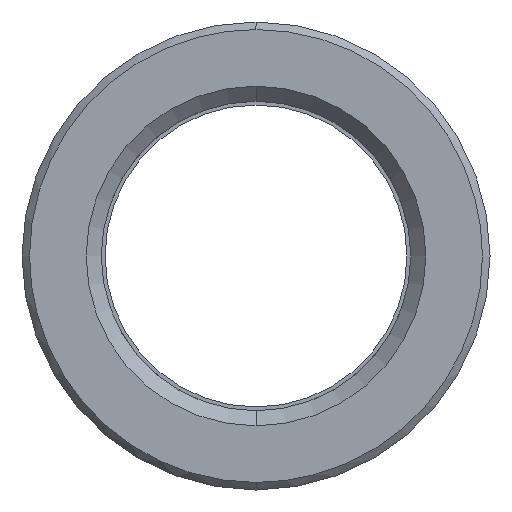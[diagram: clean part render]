
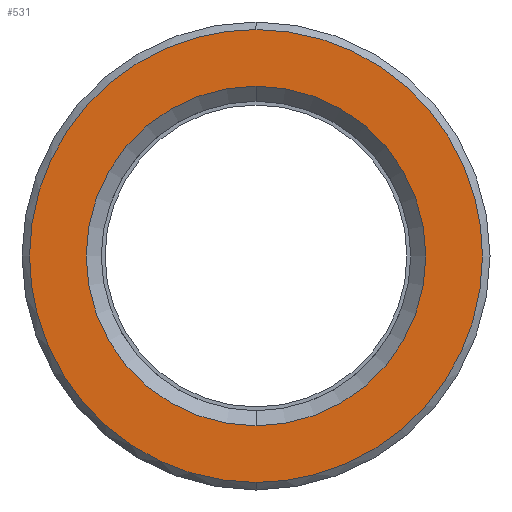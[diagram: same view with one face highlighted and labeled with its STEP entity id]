
A CAD part, left-side view. The second image highlights one B-rep face of the part: STEP entity #531.
In plain terms, the highlighted planar face has unit normal (-1, 0, 0).
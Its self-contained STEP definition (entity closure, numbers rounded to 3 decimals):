
#311=CARTESIAN_POINT('Axis2P3D Location',(0.,0.,0.)) ;
#315=CARTESIAN_POINT('Vertex',(0.,11.25,0.)) ;
#317=CARTESIAN_POINT('Vertex',(0.,0.,11.25)) ;
#320=CARTESIAN_POINT('Axis2P3D Location',(0.,0.,0.)) ;
#324=CARTESIAN_POINT('Vertex',(0.,0.,-11.25)) ;
#351=CARTESIAN_POINT('Axis2P3D Location',(0.,0.,0.)) ;
#355=CARTESIAN_POINT('Vertex',(0.,-11.25,0.)) ;
#358=CARTESIAN_POINT('Axis2P3D Location',(0.,0.,0.)) ;
#438=CARTESIAN_POINT('Axis2P3D Location',(0.,15.,0.)) ;
#444=CARTESIAN_POINT('Control Point',(0.,0.,-15.)) ;
#445=CARTESIAN_POINT('Control Point',(0.,1.359,-15.)) ;
#446=CARTESIAN_POINT('Control Point',(0.,2.718,-14.846)) ;
#447=CARTESIAN_POINT('Control Point',(0.,4.054,-14.538)) ;
#448=CARTESIAN_POINT('Control Point',(0.,6.784,-13.572)) ;
#449=CARTESIAN_POINT('Control Point',(0.,9.211,-11.985)) ;
#450=CARTESIAN_POINT('Control Point',(0.,10.379,-10.99)) ;
#451=CARTESIAN_POINT('Control Point',(0.,12.437,-8.725)) ;
#452=CARTESIAN_POINT('Control Point',(0.,13.866,-6.019)) ;
#453=CARTESIAN_POINT('Control Point',(0.,14.405,-4.583)) ;
#454=CARTESIAN_POINT('Control Point',(0.,14.829,-2.782)) ;
#455=CARTESIAN_POINT('Control Point',(0.,14.975,-0.952)) ;
#456=CARTESIAN_POINT('Control Point',(0.,14.992,-0.635)) ;
#457=CARTESIAN_POINT('Control Point',(0.,15.,-0.317)) ;
#458=CARTESIAN_POINT('Control Point',(0.,15.,0.)) ;
#459=CARTESIAN_POINT('Vertex',(0.,0.,-15.)) ;
#461=CARTESIAN_POINT('Vertex',(0.,15.,0.)) ;
#465=CARTESIAN_POINT('Control Point',(0.,-15.,0.)) ;
#466=CARTESIAN_POINT('Control Point',(0.,-15.,-1.518)) ;
#467=CARTESIAN_POINT('Control Point',(0.,-14.808,-3.036)) ;
#468=CARTESIAN_POINT('Control Point',(0.,-14.424,-4.521)) ;
#469=CARTESIAN_POINT('Control Point',(0.,-13.289,-7.363)) ;
#470=CARTESIAN_POINT('Control Point',(0.,-11.481,-9.832)) ;
#471=CARTESIAN_POINT('Control Point',(0.,-10.425,-10.945)) ;
#472=CARTESIAN_POINT('Control Point',(0.,-8.055,-12.881)) ;
#473=CARTESIAN_POINT('Control Point',(0.,-5.278,-14.165)) ;
#474=CARTESIAN_POINT('Control Point',(0.,-3.815,-14.627)) ;
#475=CARTESIAN_POINT('Control Point',(0.,-2.152,-14.927)) ;
#476=CARTESIAN_POINT('Control Point',(0.,-0.476,-14.994)) ;
#477=CARTESIAN_POINT('Control Point',(0.,-0.317,-14.998)) ;
#478=CARTESIAN_POINT('Control Point',(0.,-0.159,-15.)) ;
#479=CARTESIAN_POINT('Control Point',(0.,0.,-15.)) ;
#480=CARTESIAN_POINT('Vertex',(0.,-15.,0.)) ;
#484=CARTESIAN_POINT('Control Point',(0.,0.,15.)) ;
#485=CARTESIAN_POINT('Control Point',(0.,-1.359,15.)) ;
#486=CARTESIAN_POINT('Control Point',(0.,-2.718,14.846)) ;
#487=CARTESIAN_POINT('Control Point',(0.,-4.054,14.538)) ;
#488=CARTESIAN_POINT('Control Point',(0.,-6.784,13.572)) ;
#489=CARTESIAN_POINT('Control Point',(0.,-9.211,11.985)) ;
#490=CARTESIAN_POINT('Control Point',(0.,-10.379,10.99)) ;
#491=CARTESIAN_POINT('Control Point',(0.,-12.437,8.725)) ;
#492=CARTESIAN_POINT('Control Point',(0.,-13.866,6.019)) ;
#493=CARTESIAN_POINT('Control Point',(0.,-14.405,4.583)) ;
#494=CARTESIAN_POINT('Control Point',(0.,-14.829,2.782)) ;
#495=CARTESIAN_POINT('Control Point',(0.,-14.975,0.952)) ;
#496=CARTESIAN_POINT('Control Point',(0.,-14.992,0.635)) ;
#497=CARTESIAN_POINT('Control Point',(0.,-15.,0.317)) ;
#498=CARTESIAN_POINT('Control Point',(0.,-15.,0.)) ;
#499=CARTESIAN_POINT('Vertex',(0.,0.,15.)) ;
#503=CARTESIAN_POINT('Control Point',(0.,15.,0.)) ;
#504=CARTESIAN_POINT('Control Point',(0.,15.,1.518)) ;
#505=CARTESIAN_POINT('Control Point',(0.,14.808,3.036)) ;
#506=CARTESIAN_POINT('Control Point',(0.,14.424,4.521)) ;
#507=CARTESIAN_POINT('Control Point',(0.,13.289,7.363)) ;
#508=CARTESIAN_POINT('Control Point',(0.,11.481,9.832)) ;
#509=CARTESIAN_POINT('Control Point',(0.,10.425,10.945)) ;
#510=CARTESIAN_POINT('Control Point',(0.,8.055,12.881)) ;
#511=CARTESIAN_POINT('Control Point',(0.,5.278,14.165)) ;
#512=CARTESIAN_POINT('Control Point',(0.,3.815,14.627)) ;
#513=CARTESIAN_POINT('Control Point',(0.,2.152,14.927)) ;
#514=CARTESIAN_POINT('Control Point',(0.,0.476,14.994)) ;
#515=CARTESIAN_POINT('Control Point',(0.,0.317,14.998)) ;
#516=CARTESIAN_POINT('Control Point',(0.,0.159,15.)) ;
#517=CARTESIAN_POINT('Control Point',(0.,0.,15.)) ;
#312=DIRECTION('Axis2P3D Direction',(-1.,0.,0.)) ;
#321=DIRECTION('Axis2P3D Direction',(-1.,0.,0.)) ;
#352=DIRECTION('Axis2P3D Direction',(-1.,0.,0.)) ;
#359=DIRECTION('Axis2P3D Direction',(-1.,0.,0.)) ;
#439=DIRECTION('Axis2P3D Direction',(-1.,0.,0.)) ;
#440=DIRECTION('Axis2P3D XDirection',(0.,0.,1.)) ;
#313=AXIS2_PLACEMENT_3D('Circle Axis2P3D',#311,#312,$) ;
#322=AXIS2_PLACEMENT_3D('Circle Axis2P3D',#320,#321,$) ;
#353=AXIS2_PLACEMENT_3D('Circle Axis2P3D',#351,#352,$) ;
#360=AXIS2_PLACEMENT_3D('Circle Axis2P3D',#358,#359,$) ;
#441=AXIS2_PLACEMENT_3D('Plane Axis2P3D',#438,#439,#440) ;
#520=ORIENTED_EDGE('',*,*,#463,.F.) ;
#521=ORIENTED_EDGE('',*,*,#482,.F.) ;
#522=ORIENTED_EDGE('',*,*,#501,.F.) ;
#523=ORIENTED_EDGE('',*,*,#518,.F.) ;
#526=ORIENTED_EDGE('',*,*,#319,.T.) ;
#527=ORIENTED_EDGE('',*,*,#362,.T.) ;
#528=ORIENTED_EDGE('',*,*,#357,.T.) ;
#529=ORIENTED_EDGE('',*,*,#326,.T.) ;
#530=FACE_BOUND('',#525,.T.) ;
#531=ADVANCED_FACE('553-20X66',(#524,#530),#442,.T.) ;
#443=B_SPLINE_CURVE_WITH_KNOTS('',5,(#444,#445,#446,#447,#448,#449,#450,#451,#452,#453,#454,#455,#456,#457,#458),.UNSPECIFIED.,.F.,.U.,(6,3,3,3,6),(33.321,42.932,53.665,64.398,66.642),.UNSPECIFIED.) ;
#464=B_SPLINE_CURVE_WITH_KNOTS('',5,(#465,#466,#467,#468,#469,#470,#471,#472,#473,#474,#475,#476,#477,#478,#479),.UNSPECIFIED.,.F.,.U.,(6,3,3,3,6),(0.,10.733,21.466,32.199,33.321),.UNSPECIFIED.) ;
#483=B_SPLINE_CURVE_WITH_KNOTS('',5,(#484,#485,#486,#487,#488,#489,#490,#491,#492,#493,#494,#495,#496,#497,#498),.UNSPECIFIED.,.F.,.U.,(6,3,3,3,6),(33.321,42.932,53.665,64.398,66.642),.UNSPECIFIED.) ;
#502=B_SPLINE_CURVE_WITH_KNOTS('',5,(#503,#504,#505,#506,#507,#508,#509,#510,#511,#512,#513,#514,#515,#516,#517),.UNSPECIFIED.,.F.,.U.,(6,3,3,3,6),(0.,10.733,21.466,32.199,33.321),.UNSPECIFIED.) ;
#314=CIRCLE('generated circle',#313,11.25) ;
#323=CIRCLE('generated circle',#322,11.25) ;
#354=CIRCLE('generated circle',#353,11.25) ;
#361=CIRCLE('generated circle',#360,11.25) ;
#319=EDGE_CURVE('',#316,#318,#314,.F.) ;
#326=EDGE_CURVE('',#325,#316,#323,.F.) ;
#357=EDGE_CURVE('',#356,#325,#354,.F.) ;
#362=EDGE_CURVE('',#318,#356,#361,.F.) ;
#463=EDGE_CURVE('',#460,#462,#443,.T.) ;
#482=EDGE_CURVE('',#481,#460,#464,.T.) ;
#501=EDGE_CURVE('',#500,#481,#483,.T.) ;
#518=EDGE_CURVE('',#462,#500,#502,.T.) ;
#519=EDGE_LOOP('',(#520,#521,#522,#523)) ;
#525=EDGE_LOOP('',(#526,#527,#528,#529)) ;
#524=FACE_OUTER_BOUND('',#519,.T.) ;
#442=PLANE('Plane',#441) ;
#316=VERTEX_POINT('',#315) ;
#318=VERTEX_POINT('',#317) ;
#325=VERTEX_POINT('',#324) ;
#356=VERTEX_POINT('',#355) ;
#460=VERTEX_POINT('',#459) ;
#462=VERTEX_POINT('',#461) ;
#481=VERTEX_POINT('',#480) ;
#500=VERTEX_POINT('',#499) ;
